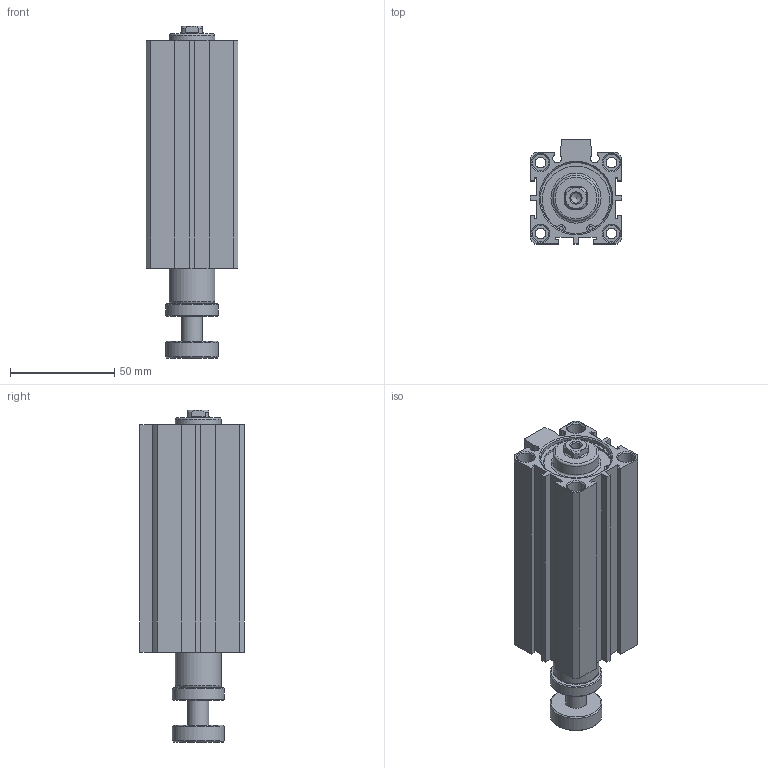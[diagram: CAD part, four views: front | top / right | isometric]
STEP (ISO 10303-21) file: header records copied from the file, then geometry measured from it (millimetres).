
FILE_DESCRIPTION((''),'2;1');
FILE_NAME('I:\3D電子目錄\氣缸\JDAR\JDAR-S\JDAR32-S\JDAR32x75-S.stp','2007-05-05T09:29:23',('662F206'),(''),'Autodesk Inventor 11','Autodesk Inventor 11','');
FILE_SCHEMA(('AUTOMOTIVE_DESIGN { 1 0 10303 214 1 1 1 1 }'));
Length unit declared in the file: millimetre
Products named in the file (3): JDAR32-S; JDAR32; R 形環 35
Assembly tree (3 placements, depth 2):
  JDAR32-S
    JDAR32
    R 形環 35  x2
Bounding box: 44 x 50 x 159.1 mm (x, y, z)
Volume: 199405.9 mm3; surface area: 47126 mm2
Topology: 3 solids, 3 shells, 170 faces, 399 edges, 259 vertices
Faces by surface type: plane 88, cylinder 51, cone 21, bspline 8, torus 2
Full cylindrical faces by diameter (mm): 1.9 x4, 2.2 x2, 5.1 x4, 8 x8, 10 x1, 22 x2, 25 x2, 34 x4, 36 x2
Entity records: 4435 total; most frequent: CARTESIAN_POINT 886, DIRECTION 740, ORIENTED_EDGE 622, EDGE_CURVE 311, AXIS2_PLACEMENT_3D 281, EDGE_LOOP 246, VERTEX_POINT 233, VECTOR 178
